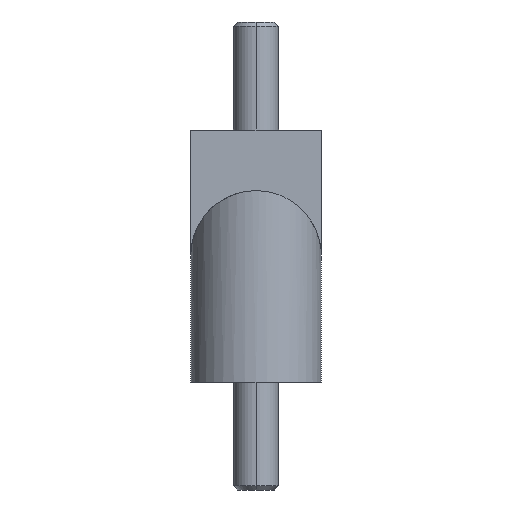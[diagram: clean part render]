
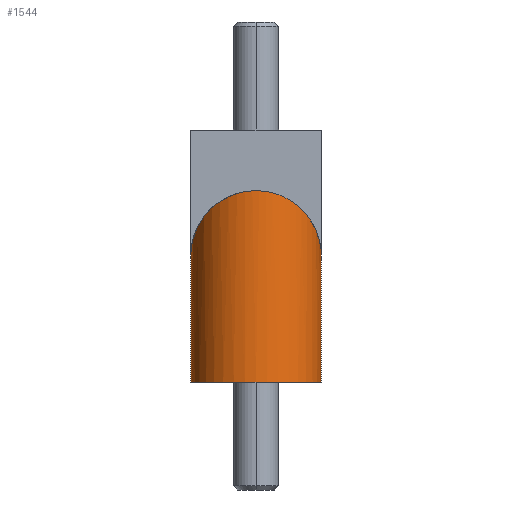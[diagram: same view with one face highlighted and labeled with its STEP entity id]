
A CAD part, front view. The second image highlights one B-rep face of the part: STEP entity #1544.
In plain terms, the highlighted cylindrical face has radius 7.25 mm (diameter 14.5 mm), a partial arc.
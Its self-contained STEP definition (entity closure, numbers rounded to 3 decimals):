
#97 = CARTESIAN_POINT ( 'NONE',  ( 38.25, 7.25, -14.5 ) ) ;
#101 = CARTESIAN_POINT ( 'NONE',  ( 23.75, 7.25, 14. ) ) ;
#186 = VECTOR ( 'NONE', #357, 1000. ) ;
#229 = DIRECTION ( 'NONE',  ( 1., 0., 0. ) ) ;
#322 = VERTEX_POINT ( 'NONE', #2194 ) ;
#342 = CIRCLE ( 'NONE', #1305, 7.25 ) ;
#344 = VERTEX_POINT ( 'NONE', #101 ) ;
#357 = DIRECTION ( 'NONE',  ( 0., 0., -1. ) ) ;
#433 = DIRECTION ( 'NONE',  ( 0., 0., -1. ) ) ;
#577 = ORIENTED_EDGE ( 'NONE', *, *, #1459, .T. ) ;
#585 = LINE ( 'NONE', #983, #2221 ) ;
#681 =( BOUNDED_CURVE ( )  B_SPLINE_CURVE ( 3, ( #1430, #97, #2152, #1994 ),
 .UNSPECIFIED., .F., .T. ) 
 B_SPLINE_CURVE_WITH_KNOTS ( ( 4, 4 ),
 ( 4.712, 7.854 ),
 .UNSPECIFIED. ) 
 CURVE ( )  GEOMETRIC_REPRESENTATION_ITEM ( )  RATIONAL_B_SPLINE_CURVE ( ( 1., 0.333, 0.333, 1. ) ) 
 REPRESENTATION_ITEM ( '' )  );
#882 = AXIS2_PLACEMENT_3D ( 'NONE', #1392, #2268, #2082 ) ;
#983 = CARTESIAN_POINT ( 'NONE',  ( 23.75, -7.25, 14. ) ) ;
#1008 = CARTESIAN_POINT ( 'NONE',  ( 23.75, 7.25, 0. ) ) ;
#1051 = VERTEX_POINT ( 'NONE', #1912 ) ;
#1088 = ORIENTED_EDGE ( 'NONE', *, *, #1443, .F. ) ;
#1144 = EDGE_LOOP ( 'NONE', ( #1259, #2005, #1088, #577 ) ) ;
#1185 = DIRECTION ( 'NONE',  ( 0., 0., 1. ) ) ;
#1259 = ORIENTED_EDGE ( 'NONE', *, *, #1311, .F. ) ;
#1305 = AXIS2_PLACEMENT_3D ( 'NONE', #1901, #1185, #229 ) ;
#1311 = EDGE_CURVE ( 'NONE', #1577, #1051, #681, .T. ) ;
#1392 = CARTESIAN_POINT ( 'NONE',  ( 23.75, 0., 14. ) ) ;
#1430 = CARTESIAN_POINT ( 'NONE',  ( 23.75, 7.25, 0. ) ) ;
#1443 = EDGE_CURVE ( 'NONE', #322, #344, #342, .T. ) ;
#1459 = EDGE_CURVE ( 'NONE', #322, #1051, #585, .T. ) ;
#1544 = ADVANCED_FACE ( 'CYL_1', ( #1725 ), #2073, .T. ) ;
#1577 = VERTEX_POINT ( 'NONE', #1008 ) ;
#1725 = FACE_OUTER_BOUND ( 'NONE', #1144, .T. ) ;
#1848 = EDGE_CURVE ( 'NONE', #344, #1577, #2059, .T. ) ;
#1878 = CARTESIAN_POINT ( 'NONE',  ( 23.75, 7.25, 14. ) ) ;
#1901 = CARTESIAN_POINT ( 'NONE',  ( 23.75, 0., 14. ) ) ;
#1912 = CARTESIAN_POINT ( 'NONE',  ( 23.75, -7.25, 0. ) ) ;
#1994 = CARTESIAN_POINT ( 'NONE',  ( 23.75, -7.25, 0. ) ) ;
#2005 = ORIENTED_EDGE ( 'NONE', *, *, #1848, .F. ) ;
#2059 = LINE ( 'NONE', #1878, #186 ) ;
#2073 = CYLINDRICAL_SURFACE ( 'NONE', #882, 7.25 ) ;
#2082 = DIRECTION ( 'NONE',  ( -1., 0., 0. ) ) ;
#2152 = CARTESIAN_POINT ( 'NONE',  ( 38.25, -7.25, -14.5 ) ) ;
#2194 = CARTESIAN_POINT ( 'NONE',  ( 23.75, -7.25, 14. ) ) ;
#2221 = VECTOR ( 'NONE', #433, 1000. ) ;
#2268 = DIRECTION ( 'NONE',  ( 0., 0., -1. ) ) ;
